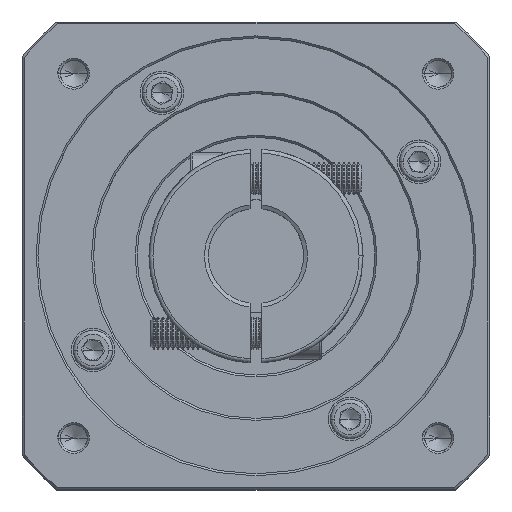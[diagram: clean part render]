
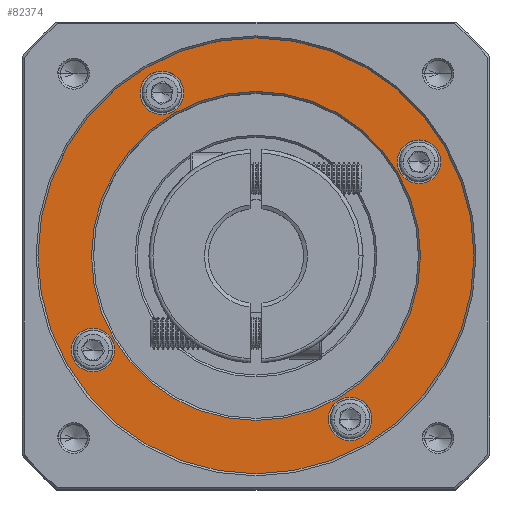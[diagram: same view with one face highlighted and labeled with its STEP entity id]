
A CAD part, top view. The second image highlights one B-rep face of the part: STEP entity #82374.
In plain terms, the highlighted planar face has unit normal (0, 0, 1).
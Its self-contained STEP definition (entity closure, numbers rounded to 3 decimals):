
#1186 = CARTESIAN_POINT ( 'NONE',  ( 97.751, 145.346, 73.53 ) ) ;
#2598 = DIRECTION ( 'NONE',  ( 0., -1., 0. ) ) ;
#3875 = CARTESIAN_POINT ( 'NONE',  ( 19.001, 186.482, 73.53 ) ) ;
#5176 = FACE_OUTER_BOUND ( 'NONE', #117146, .T. ) ;
#6088 = DIRECTION ( 'NONE',  ( 1., 0., 0. ) ) ;
#7061 = CIRCLE ( 'NONE', #43359, 55. ) ;
#8591 = CIRCLE ( 'NONE', #66285, 5.5 ) ;
#9021 = VERTEX_POINT ( 'NONE', #66399 ) ;
#10968 = DIRECTION ( 'NONE',  ( 0., 0., -1. ) ) ;
#11541 = CARTESIAN_POINT ( 'NONE',  ( 1.615, 121.596, 73.53 ) ) ;
#12501 = EDGE_LOOP ( 'NONE', ( #26655, #27463 ) ) ;
#12670 = CIRCLE ( 'NONE', #39718, 41.5 ) ;
#12724 = EDGE_CURVE ( 'NONE', #105754, #118909, #7061, .T. ) ;
#12885 = AXIS2_PLACEMENT_3D ( 'NONE', #47736, #113380, #57197 ) ;
#12928 = EDGE_LOOP ( 'NONE', ( #72952, #67371 ) ) ;
#13255 = VERTEX_POINT ( 'NONE', #21829 ) ;
#13390 = DIRECTION ( 'NONE',  ( 1., 0., 0. ) ) ;
#14142 = CARTESIAN_POINT ( 'NONE',  ( 78.387, 169.096, 73.53 ) ) ;
#14323 = EDGE_CURVE ( 'NONE', #118909, #105754, #67897, .T. ) ;
#14968 = VERTEX_POINT ( 'NONE', #55859 ) ;
#20980 = ORIENTED_EDGE ( 'NONE', *, *, #87497, .T. ) ;
#20993 = DIRECTION ( 'NONE',  ( 1., 0., 0. ) ) ;
#21374 = EDGE_CURVE ( 'NONE', #45342, #78629, #43598, .T. ) ;
#21612 = AXIS2_PLACEMENT_3D ( 'NONE', #52271, #117909, #61733 ) ;
#21829 = CARTESIAN_POINT ( 'NONE',  ( -3.885, 121.596, 73.53 ) ) ;
#22174 = VERTEX_POINT ( 'NONE', #101237 ) ;
#23631 = CARTESIAN_POINT ( 'NONE',  ( 13.501, 186.482, 73.53 ) ) ;
#24300 = FACE_BOUND ( 'NONE', #74666, .T. ) ;
#25105 = VERTEX_POINT ( 'NONE', #39457 ) ;
#25504 = EDGE_CURVE ( 'NONE', #26936, #13255, #75516, .T. ) ;
#25799 = ORIENTED_EDGE ( 'NONE', *, *, #12724, .T. ) ;
#26655 = ORIENTED_EDGE ( 'NONE', *, *, #25504, .T. ) ;
#26717 = CARTESIAN_POINT ( 'NONE',  ( 42.751, 145.346, 73.53 ) ) ;
#26936 = VERTEX_POINT ( 'NONE', #77238 ) ;
#27300 = FACE_BOUND ( 'NONE', #108371, .T. ) ;
#27463 = ORIENTED_EDGE ( 'NONE', *, *, #112215, .T. ) ;
#28237 = CIRCLE ( 'NONE', #48473, 5.5 ) ;
#31410 = CARTESIAN_POINT ( 'NONE',  ( 83.887, 169.096, 73.53 ) ) ;
#33794 = ORIENTED_EDGE ( 'NONE', *, *, #14323, .T. ) ;
#35498 = CARTESIAN_POINT ( 'NONE',  ( 24.501, 186.482, 73.53 ) ) ;
#35567 = DIRECTION ( 'NONE',  ( 0., 0., -1. ) ) ;
#36214 = DIRECTION ( 'NONE',  ( 1., 0., 0. ) ) ;
#38569 = EDGE_CURVE ( 'NONE', #22174, #9021, #38888, .T. ) ;
#38888 = CIRCLE ( 'NONE', #81886, 41.5 ) ;
#39457 = CARTESIAN_POINT ( 'NONE',  ( 72.001, 104.21, 73.53 ) ) ;
#39718 = AXIS2_PLACEMENT_3D ( 'NONE', #91891, #35567, #101311 ) ;
#40883 = DIRECTION ( 'NONE',  ( 1., 0., 0. ) ) ;
#41319 = CARTESIAN_POINT ( 'NONE',  ( 66.501, 104.21, 73.53 ) ) ;
#43359 = AXIS2_PLACEMENT_3D ( 'NONE', #26717, #92518, #36214 ) ;
#43541 = DIRECTION ( 'NONE',  ( 0., 0., -1. ) ) ;
#43591 = ORIENTED_EDGE ( 'NONE', *, *, #21374, .T. ) ;
#43598 = CIRCLE ( 'NONE', #97575, 5.5 ) ;
#45220 = VERTEX_POINT ( 'NONE', #23631 ) ;
#45342 = VERTEX_POINT ( 'NONE', #45504 ) ;
#45504 = CARTESIAN_POINT ( 'NONE',  ( 89.387, 169.096, 73.53 ) ) ;
#46363 = CARTESIAN_POINT ( 'NONE',  ( -12.249, 145.346, 73.53 ) ) ;
#47369 = EDGE_CURVE ( 'NONE', #45220, #95822, #119445, .T. ) ;
#47561 = EDGE_CURVE ( 'NONE', #14968, #25105, #28237, .T. ) ;
#47736 = CARTESIAN_POINT ( 'NONE',  ( 19.001, 186.482, 73.53 ) ) ;
#48473 = AXIS2_PLACEMENT_3D ( 'NONE', #99742, #43541, #109187 ) ;
#48558 = CARTESIAN_POINT ( 'NONE',  ( 42.751, 145.346, 73.53 ) ) ;
#49438 = FACE_BOUND ( 'NONE', #12928, .T. ) ;
#49996 = AXIS2_PLACEMENT_3D ( 'NONE', #31410, #97110, #40883 ) ;
#50264 = CIRCLE ( 'NONE', #88417, 5.5 ) ;
#50775 = DIRECTION ( 'NONE',  ( 1., 0., 0. ) ) ;
#52271 = CARTESIAN_POINT ( 'NONE',  ( 42.751, 145.346, 73.53 ) ) ;
#55859 = CARTESIAN_POINT ( 'NONE',  ( 61.001, 104.21, 73.53 ) ) ;
#57197 = DIRECTION ( 'NONE',  ( 1., 0., 0. ) ) ;
#58046 = DIRECTION ( 'NONE',  ( 1., 0., 0. ) ) ;
#58589 = CIRCLE ( 'NONE', #49996, 5.5 ) ;
#59119 = DIRECTION ( 'NONE',  ( 0., 0., -1. ) ) ;
#61347 = PLANE ( 'NONE',  #21612 ) ;
#61733 = DIRECTION ( 'NONE',  ( 1., 0., 0. ) ) ;
#62518 = DIRECTION ( 'NONE',  ( 0., 0., -1. ) ) ;
#62958 = CIRCLE ( 'NONE', #105408, 5.5 ) ;
#63687 = ORIENTED_EDGE ( 'NONE', *, *, #47369, .T. ) ;
#66285 = AXIS2_PLACEMENT_3D ( 'NONE', #11541, #77378, #20993 ) ;
#66399 = CARTESIAN_POINT ( 'NONE',  ( 42.751, 103.846, 73.53 ) ) ;
#67023 = EDGE_CURVE ( 'NONE', #9021, #22174, #12670, .T. ) ;
#67371 = ORIENTED_EDGE ( 'NONE', *, *, #47561, .T. ) ;
#67396 = CARTESIAN_POINT ( 'NONE',  ( 83.887, 169.096, 73.53 ) ) ;
#67897 = CIRCLE ( 'NONE', #68744, 55. ) ;
#68744 = AXIS2_PLACEMENT_3D ( 'NONE', #48558, #114211, #58046 ) ;
#69774 = DIRECTION ( 'NONE',  ( 0., 0., -1. ) ) ;
#71339 = AXIS2_PLACEMENT_3D ( 'NONE', #118694, #62518, #6088 ) ;
#72952 = ORIENTED_EDGE ( 'NONE', *, *, #105280, .T. ) ;
#74376 = FACE_BOUND ( 'NONE', #82015, .T. ) ;
#74666 = EDGE_LOOP ( 'NONE', ( #20980, #63687 ) ) ;
#75516 = CIRCLE ( 'NONE', #71339, 5.5 ) ;
#76808 = DIRECTION ( 'NONE',  ( 1., 0., 0. ) ) ;
#77238 = CARTESIAN_POINT ( 'NONE',  ( 7.115, 121.596, 73.53 ) ) ;
#77378 = DIRECTION ( 'NONE',  ( 0., 0., -1. ) ) ;
#78629 = VERTEX_POINT ( 'NONE', #14142 ) ;
#81886 = AXIS2_PLACEMENT_3D ( 'NONE', #115273, #59119, #2598 ) ;
#82015 = EDGE_LOOP ( 'NONE', ( #43591, #87536 ) ) ;
#82374 = ADVANCED_FACE ( 'NONE', ( #5176, #27300, #74376, #49438, #24300, #99325 ), #61347, .T. ) ;
#87497 = EDGE_CURVE ( 'NONE', #95822, #45220, #50264, .T. ) ;
#87536 = ORIENTED_EDGE ( 'NONE', *, *, #109177, .T. ) ;
#88417 = AXIS2_PLACEMENT_3D ( 'NONE', #3875, #69774, #13390 ) ;
#91891 = CARTESIAN_POINT ( 'NONE',  ( 42.751, 145.346, 73.53 ) ) ;
#92518 = DIRECTION ( 'NONE',  ( 0., 0., 1. ) ) ;
#94460 = ORIENTED_EDGE ( 'NONE', *, *, #67023, .T. ) ;
#95822 = VERTEX_POINT ( 'NONE', #35498 ) ;
#97110 = DIRECTION ( 'NONE',  ( 0., 0., -1. ) ) ;
#97575 = AXIS2_PLACEMENT_3D ( 'NONE', #67396, #10968, #76808 ) ;
#97595 = ORIENTED_EDGE ( 'NONE', *, *, #38569, .T. ) ;
#99325 = FACE_BOUND ( 'NONE', #12501, .T. ) ;
#99742 = CARTESIAN_POINT ( 'NONE',  ( 66.501, 104.21, 73.53 ) ) ;
#101237 = CARTESIAN_POINT ( 'NONE',  ( 42.751, 186.846, 73.53 ) ) ;
#101311 = DIRECTION ( 'NONE',  ( 0., -1., 0. ) ) ;
#105280 = EDGE_CURVE ( 'NONE', #25105, #14968, #62958, .T. ) ;
#105408 = AXIS2_PLACEMENT_3D ( 'NONE', #41319, #107020, #50775 ) ;
#105754 = VERTEX_POINT ( 'NONE', #1186 ) ;
#107020 = DIRECTION ( 'NONE',  ( 0., 0., -1. ) ) ;
#108371 = EDGE_LOOP ( 'NONE', ( #94460, #97595 ) ) ;
#109177 = EDGE_CURVE ( 'NONE', #78629, #45342, #58589, .T. ) ;
#109187 = DIRECTION ( 'NONE',  ( 1., 0., 0. ) ) ;
#112215 = EDGE_CURVE ( 'NONE', #13255, #26936, #8591, .T. ) ;
#113380 = DIRECTION ( 'NONE',  ( 0., 0., -1. ) ) ;
#114211 = DIRECTION ( 'NONE',  ( 0., 0., 1. ) ) ;
#115273 = CARTESIAN_POINT ( 'NONE',  ( 42.751, 145.346, 73.53 ) ) ;
#117146 = EDGE_LOOP ( 'NONE', ( #25799, #33794 ) ) ;
#117909 = DIRECTION ( 'NONE',  ( 0., 0., 1. ) ) ;
#118694 = CARTESIAN_POINT ( 'NONE',  ( 1.615, 121.596, 73.53 ) ) ;
#118909 = VERTEX_POINT ( 'NONE', #46363 ) ;
#119445 = CIRCLE ( 'NONE', #12885, 5.5 ) ;
